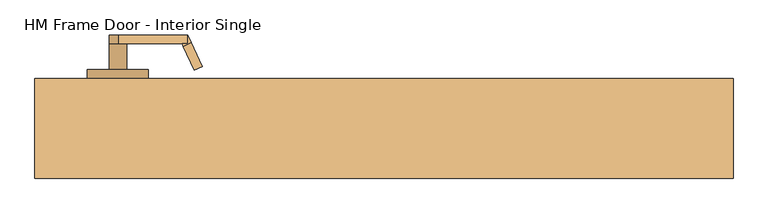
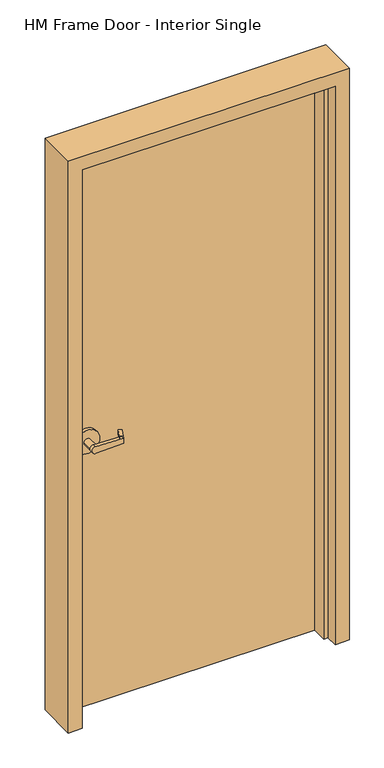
"""IFC4 building model written with IfcOpenShell, lengths in millimetres: door geometry."""

from ifc_helpers import new_model, si_unit, frame, origin, origin_with_axes, place, context, project, spatial, polyline, circle_curve, outline, extrude, faceted_brep, source, transform, mapped, element, save
from ifc_brep_helpers import plane_surface, cylinder_surface, advanced_brep


def hm_frame_door_interior_single_41877bdb(model_context):
    return source(origin(), model_context, "Body", "SolidModel", [
        advanced_brep(
        [(-291.892857, -18.0476392, 1025.525), (-275.7911012, 16.4826875, 1022.35), (-275.7911012, 16.4826875, 1009.65), (-291.892857, -18.0476392, 1006.475), (-293.8407923, -22.225, 1006.475), (-293.8407923, -22.225, 1025.525), (-285.75, -34.925, 1006.475), (-280.3827481, -23.4148911, 1006.475), (-264.2809923, 11.1154356, 1009.65), (-264.2809923, 11.1154356, 1022.35), (-280.3827481, -23.4148911, 1025.525), (-285.75, -34.925, 1025.525), (-285.75, -22.225, 1025.525), (-285.75, -22.225, 1006.475), (-386.9525418, -34.925, 1028.6937791), (-386.9525418, -34.925, 1003.3062209), (-386.9525418, -22.225, 1003.3062209), (-374.65, -22.225, 1016.0), (-386.9525418, -22.225, 1028.6937791), (-400.05, -22.225, 1016.0), (-400.05, 15.875, 1016.0), (-374.65, 15.875, 1016.0), (-431.8, 15.875, 1016.0), (-342.9, 15.875, 1016.0), (-431.8, 28.575, 1016.0), (-342.9, 28.575, 1016.0)],
        [
            (0, 1),
            (1, 2),
            (2, 3),
            (3, 4),
            (4, 5),
            (5, 0),
            (6, 7),
            (7, 8),
            (8, 9),
            (9, 10),
            (10, 11),
            (11, 6),
            (10, 0),
            (5, 12),
            (12, 11),
            (9, 1),
            (8, 2),
            (7, 3),
            (6, 13),
            (13, 4),
            (11, 14),
            (14, 15, circle_curve(frame((-387.35, -34.925, 1016.0), z_axis=(0.0, -1.0, 0.0), x_axis=(1.0, 0.0, 0.0)), 12.7)),
            (15, 6),
            (13, 16),
            (16, 17, circle_curve(frame((-387.35, -22.225, 1016.0), z_axis=(0.0, -1.0, 0.0), x_axis=(1.0, 0.0, 0.0)), 12.7)),
            (17, 18, circle_curve(frame((-387.35, -22.225, 1016.0), z_axis=(0.0, -1.0, 0.0), x_axis=(1.0, 0.0, 0.0)), 12.7)),
            (18, 12),
            (18, 14),
            (18, 19, circle_curve(frame((-387.35, -22.225, 1016.0), z_axis=(0.0, -1.0, 0.0), x_axis=(1.0, 0.0, 0.0)), 12.7)),
            (19, 16, circle_curve(frame((-387.35, -22.225, 1016.0), z_axis=(0.0, -1.0, 0.0), x_axis=(1.0, 0.0, 0.0)), 12.7)),
            (16, 15),
            (19, 20),
            (20, 21, circle_curve(frame((-387.35, 15.875, 1016.0), z_axis=(0.0, -1.0, 0.0), x_axis=(1.0, 0.0, 0.0)), 12.7)),
            (21, 17),
            (21, 20, circle_curve(frame((-387.35, 15.875, 1016.0), z_axis=(0.0, -1.0, 0.0), x_axis=(1.0, 0.0, 0.0)), 12.7)),
            (22, 23, circle_curve(frame((-387.35, 15.875, 1016.0), z_axis=(0.0, -1.0, 0.0), x_axis=(1.0, 0.0, 0.0)), 44.45)),
            (23, 22, circle_curve(frame((-387.35, 15.875, 1016.0), z_axis=(0.0, -1.0, 0.0), x_axis=(1.0, 0.0, 0.0)), 44.45)),
            (24, 25, circle_curve(frame((-387.35, 28.575, 1016.0), z_axis=(0.0, 1.0, 0.0), x_axis=(1.0, 0.0, 0.0)), 44.45)),
            (25, 24, circle_curve(frame((-387.35, 28.575, 1016.0), z_axis=(0.0, 1.0, 0.0), x_axis=(1.0, 0.0, 0.0)), 44.45)),
            (22, 24),
            (25, 23),
        ],
        [
            plane_surface(frame((-297.2601089, -29.5577481, 1025.525), z_axis=(-0.9063077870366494, 0.4226182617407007, 0.0), x_axis=(0.0, 0.0, 1.0))),
            plane_surface(frame((-285.75, -34.925, 1025.525), z_axis=(0.9063077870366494, -0.4226182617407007, 0.0), x_axis=(0.0, 0.0, -1.0))),
            plane_surface(frame((-297.2601089, -29.5577481, 1025.525), z_axis=(0.0, 0.0, 1.0000000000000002), x_axis=(0.9063077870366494, -0.42261826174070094, 0.0))),
            plane_surface(frame((-291.892857, -18.0476392, 1025.525), z_axis=(0.035096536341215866, 0.07526476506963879, 0.9965457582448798), x_axis=(0.9063077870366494, -0.42261826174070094, 0.0))),
            plane_surface(frame((-275.7911012, 16.4826875, 1022.35), z_axis=(0.42261826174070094, 0.9063077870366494, 0.0), x_axis=(0.9063077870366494, -0.42261826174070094, 0.0))),
            plane_surface(frame((-275.7911012, 16.4826875, 1009.65), z_axis=(0.03509653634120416, 0.07526476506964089, -0.9965457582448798), x_axis=(0.9063077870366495, -0.42261826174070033, 0.0))),
            plane_surface(frame((-291.892857, -18.0476392, 1006.475), z_axis=(0.0, 0.0, -1.0000000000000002), x_axis=(0.9063077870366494, -0.42261826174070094, 0.0))),
            plane_surface(frame((-285.75, -34.925, 1025.525), z_axis=(0.0, -1.0, 0.0), x_axis=(-0.9995101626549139, 0.0, 0.03129592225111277))),
            plane_surface(frame((-285.75, -22.225, 1025.525), z_axis=(0.0, 1.0, 0.0), x_axis=(0.9995101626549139, 0.0, -0.03129592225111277))),
            plane_surface(frame((-285.75, -34.925, 1025.525), z_axis=(0.03129592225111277, 0.0, 0.9995101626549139), x_axis=(0.0, 1.0, 0.0))),
            cylinder_surface(frame((-387.35, -22.225, 1016.0), z_axis=(0.0, -1.0, 0.0), x_axis=(1.0, 0.0, 0.0)), 12.7),
            plane_surface(frame((-386.9525418, -34.925, 1003.3062209), z_axis=(0.03129592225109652, 0.0, -0.9995101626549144), x_axis=(0.0, 1.0, 0.0))),
            cylinder_surface(frame((-387.35, 15.875, 1016.0), z_axis=(0.0, -1.0, 0.0), x_axis=(1.0, 0.0, 0.0)), 12.7),
            plane_surface(frame((-342.9, 15.875, 1016.0), z_axis=(0.0, -1.0, 0.0), x_axis=(0.0, 0.0, 1.0))),
            plane_surface(frame((-342.9, 28.575, 1016.0), z_axis=(0.0, 1.0, 0.0), x_axis=(0.0, 0.0, -1.0))),
            cylinder_surface(frame((-387.35, 28.575, 1016.0), z_axis=(0.0, -1.0, 0.0), x_axis=(1.0, 0.0, 0.0)), 44.45),
        ],
        [
            (0, [[1, 2, 3, 4, 5, 6]]),
            (1, [[7, 8, 9, 10, 11, 12]]),
            (2, [[-11, 13, -6, 14, 15]]),
            (3, [[-1, -13, -10, 16]]),
            (4, [[-2, -16, -9, 17]]),
            (5, [[-3, -17, -8, 18]]),
            (6, [[-7, 19, 20, -4, -18]]),
            (7, [[21, 22, 23, -12]]),
            (8, [[24, 25, 26, 27, -14, -5, -20]]),
            (9, [[-21, -15, -27, 28]]),
            (10, [[-22, -28, 29, 30, 31]]),
            (11, [[-23, -31, -24, -19]]),
            (12, [[32, 33, 34, -25, -30]]),
            (12, [[-32, -29, -26, -34, 35]]),
            (13, [[36, 37], [-33, -35]]),
            (14, [[38, 39]]),
            (15, [[-36, 40, -39, 41]]),
            (15, [[-37, -41, -38, -40]]),
        ],
    ),
        advanced_brep(
        [(-291.892857, 119.6476392, 1006.475), (-275.7911012, 85.1173125, 1009.65), (-275.7911012, 85.1173125, 1022.35), (-291.892857, 119.6476392, 1025.525), (-293.8407923, 123.825, 1025.525), (-293.8407923, 123.825, 1006.475), (-285.75, 136.525, 1025.525), (-280.3827481, 125.0148911, 1025.525), (-264.2809923, 90.4845644, 1022.35), (-264.2809923, 90.4845644, 1009.65), (-280.3827481, 125.0148911, 1006.475), (-285.75, 136.525, 1006.475), (-285.75, 123.825, 1006.475), (-285.75, 123.825, 1025.525), (-386.9525418, 136.525, 1003.3062209), (-386.9525418, 136.525, 1028.6937791), (-386.9525418, 123.825, 1028.6937791), (-374.65, 123.825, 1016.0), (-386.9525418, 123.825, 1003.3062209), (-400.05, 123.825, 1016.0), (-400.05, 85.725, 1016.0), (-374.65, 85.725, 1016.0), (-431.8, 85.725, 1016.0), (-342.9, 85.725, 1016.0), (-431.8, 73.025, 1016.0), (-342.9, 73.025, 1016.0)],
        [
            (0, 1),
            (1, 2),
            (2, 3),
            (3, 4),
            (4, 5),
            (5, 0),
            (6, 7),
            (7, 8),
            (8, 9),
            (9, 10),
            (10, 11),
            (11, 6),
            (10, 0),
            (5, 12),
            (12, 11),
            (9, 1),
            (8, 2),
            (7, 3),
            (6, 13),
            (13, 4),
            (11, 14),
            (14, 15, circle_curve(frame((-387.35, 136.525, 1016.0), z_axis=(0.0, 1.0, 0.0), x_axis=(1.0, 0.0, 0.0)), 12.7)),
            (15, 6),
            (13, 16),
            (16, 17, circle_curve(frame((-387.35, 123.825, 1016.0), z_axis=(0.0, 1.0, 0.0), x_axis=(1.0, 0.0, 0.0)), 12.7)),
            (17, 18, circle_curve(frame((-387.35, 123.825, 1016.0), z_axis=(0.0, 1.0, 0.0), x_axis=(1.0, 0.0, 0.0)), 12.7)),
            (18, 12),
            (18, 14),
            (18, 19, circle_curve(frame((-387.35, 123.825, 1016.0), z_axis=(0.0, 1.0, 0.0), x_axis=(1.0, 0.0, 0.0)), 12.7)),
            (19, 16, circle_curve(frame((-387.35, 123.825, 1016.0), z_axis=(0.0, 1.0, 0.0), x_axis=(1.0, 0.0, 0.0)), 12.7)),
            (16, 15),
            (19, 20),
            (20, 21, circle_curve(frame((-387.35, 85.725, 1016.0), z_axis=(0.0, 1.0, 0.0), x_axis=(1.0, 0.0, 0.0)), 12.7)),
            (21, 17),
            (21, 20, circle_curve(frame((-387.35, 85.725, 1016.0), z_axis=(0.0, 1.0, 0.0), x_axis=(1.0, 0.0, 0.0)), 12.7)),
            (22, 23, circle_curve(frame((-387.35, 85.725, 1016.0), z_axis=(0.0, 1.0, 0.0), x_axis=(1.0, 0.0, 0.0)), 44.45)),
            (23, 22, circle_curve(frame((-387.35, 85.725, 1016.0), z_axis=(0.0, 1.0, 0.0), x_axis=(1.0, 0.0, 0.0)), 44.45)),
            (24, 25, circle_curve(frame((-387.35, 73.025, 1016.0), z_axis=(0.0, -1.0, 0.0), x_axis=(1.0, 0.0, 0.0)), 44.45)),
            (25, 24, circle_curve(frame((-387.35, 73.025, 1016.0), z_axis=(0.0, -1.0, 0.0), x_axis=(1.0, 0.0, 0.0)), 44.45)),
            (22, 24),
            (25, 23),
        ],
        [
            plane_surface(frame((-297.2601089, 131.1577481, 1006.475), z_axis=(-0.9063077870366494, -0.4226182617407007, 0.0), x_axis=(0.0, 0.0, -1.0))),
            plane_surface(frame((-285.75, 136.525, 1006.475), z_axis=(0.9063077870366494, 0.4226182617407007, 0.0), x_axis=(0.0, 0.0, 1.0))),
            plane_surface(frame((-297.2601089, 131.1577481, 1006.475), z_axis=(0.0, 0.0, -1.0000000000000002), x_axis=(0.9063077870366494, 0.42261826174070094, 0.0))),
            plane_surface(frame((-291.892857, 119.6476392, 1006.475), z_axis=(0.03509653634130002, -0.07526476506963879, -0.9965457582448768), x_axis=(0.9063077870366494, 0.42261826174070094, 0.0))),
            plane_surface(frame((-275.7911012, 85.1173125, 1009.65), z_axis=(0.42261826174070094, -0.9063077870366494, 0.0), x_axis=(0.9063077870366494, 0.42261826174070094, 0.0))),
            plane_surface(frame((-275.7911012, 85.1173125, 1022.35), z_axis=(0.03509653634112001, -0.07526476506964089, 0.9965457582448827), x_axis=(0.9063077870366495, 0.42261826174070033, 0.0))),
            plane_surface(frame((-291.892857, 119.6476392, 1025.525), z_axis=(0.0, 0.0, 1.0000000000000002), x_axis=(0.9063077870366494, 0.42261826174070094, 0.0))),
            plane_surface(frame((-285.75, 136.525, 1006.475), z_axis=(0.0, 1.0, 0.0), x_axis=(-0.9995101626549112, 0.0, -0.03129592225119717))),
            plane_surface(frame((-285.75, 123.825, 1006.475), z_axis=(0.0, -1.0, 0.0), x_axis=(0.9995101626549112, 0.0, 0.03129592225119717))),
            plane_surface(frame((-285.75, 136.525, 1006.475), z_axis=(0.03129592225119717, 0.0, -0.9995101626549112), x_axis=(0.0, -1.0, 0.0))),
            cylinder_surface(frame((-387.35, 123.825, 1016.0), z_axis=(0.0, 1.0, 0.0), x_axis=(1.0, 0.0, 0.0)), 12.7),
            plane_surface(frame((-386.9525418, 136.525, 1028.6937791), z_axis=(0.031295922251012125, 0.0, 0.9995101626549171), x_axis=(0.0, -1.0, 0.0))),
            cylinder_surface(frame((-387.35, 85.725, 1016.0), z_axis=(0.0, 1.0, 0.0), x_axis=(1.0, 0.0, 0.0)), 12.7),
            plane_surface(frame((-342.9, 85.725, 1016.0), z_axis=(0.0, 1.0, 0.0), x_axis=(0.0, 0.0, -1.0))),
            plane_surface(frame((-342.9, 73.025, 1016.0), z_axis=(0.0, -1.0, 0.0), x_axis=(0.0, 0.0, 1.0))),
            cylinder_surface(frame((-387.35, 73.025, 1016.0), z_axis=(0.0, 1.0, 0.0), x_axis=(1.0, 0.0, 0.0)), 44.45),
        ],
        [
            (0, [[1, 2, 3, 4, 5, 6]]),
            (1, [[7, 8, 9, 10, 11, 12]]),
            (2, [[-11, 13, -6, 14, 15]]),
            (3, [[-1, -13, -10, 16]]),
            (4, [[-2, -16, -9, 17]]),
            (5, [[-3, -17, -8, 18]]),
            (6, [[-7, 19, 20, -4, -18]]),
            (7, [[21, 22, 23, -12]]),
            (8, [[24, 25, 26, 27, -14, -5, -20]]),
            (9, [[-21, -15, -27, 28]]),
            (10, [[-22, -28, 29, 30, 31]]),
            (11, [[-23, -31, -24, -19]]),
            (12, [[32, 33, 34, -25, -30]]),
            (12, [[-32, -29, -26, -34, 35]]),
            (13, [[36, 37], [-33, -35]]),
            (14, [[38, 39]]),
            (15, [[-36, 40, -39, 41]]),
            (15, [[-37, -41, -38, -40]]),
        ],
    ),
        faceted_brep([(508.0, 73.025, 0.0), (508.0, -73.025, 0.0), (457.2, -73.025, 0.0), (457.2, -28.575, 0.0), (441.325, -28.575, 0.0), (441.325, 28.575, 0.0), (457.2, 28.575, 0.0), (457.2, 73.025, 0.0), (508.0, 73.025, 2184.4), (508.0, -73.025, 2184.4), (-508.0, -73.025, 2184.4), (-508.0, -73.025, 0.0), (-457.2, -73.025, 0.0), (-457.2, -73.025, 2133.6), (457.2, -73.025, 2133.6), (457.2, -28.575, 2133.6), (-457.2, -28.575, 2133.6), (-457.2, -28.575, 0.0), (-441.325, -28.575, 0.0), (-441.325, -28.575, 2117.725), (441.325, -28.575, 2117.725), (441.325, 28.575, 2117.725), (-441.325, 28.575, 2117.725), (-441.325, 28.575, 0.0), (-457.2, 28.575, 0.0), (-457.2, 28.575, 2133.6), (457.2, 28.575, 2133.6), (457.2, 73.025, 2133.6), (-457.2, 73.025, 2133.6), (-457.2, 73.025, 0.0), (-508.0, 73.025, 0.0), (-508.0, 73.025, 2184.4)], [[[0, 1, 2, 3, 4, 5, 6, 7]], [[0, 8, 9, 1]], [[2, 1, 9, 10, 11, 12, 13, 14]], [[3, 2, 14, 15]], [[4, 3, 15, 16, 17, 18, 19, 20]], [[5, 4, 20, 21]], [[6, 5, 21, 22, 23, 24, 25, 26]], [[7, 6, 26, 27]], [[0, 7, 27, 28, 29, 30, 31, 8]], [[9, 8, 31, 10]], [[15, 14, 13, 16]], [[21, 20, 19, 22]], [[27, 26, 25, 28]], [[11, 30, 29, 24, 23, 18, 17, 12]], [[10, 31, 30, 11]], [[16, 13, 12, 17]], [[22, 19, 18, 23]], [[28, 25, 24, 29]]]),
        extrude(outline(polyline([(-457.2, 73.025), (457.2, 73.025), (457.2, 28.575), (-457.2, 28.575), (-457.2, 73.025)])), origin_with_axes(), (0.0, 0.0, 1.0), 2133.6),
    ])


if __name__ == "__main__":
    model = new_model("IFC4")
    model_context = context("Model", 3, world=origin())
    ifc_project = project(units=[si_unit("LENGTHUNIT", "METRE", prefix="MILLI")], contexts=[model_context])
    site = spatial("IfcSite", under=ifc_project)
    building = spatial("IfcBuilding", under=site)
    placement = place(None, origin())
    hm_frame_door_interior_single_shape = hm_frame_door_interior_single_41877bdb(model_context)
    element("IfcDoor", 1, ObjectType="HM Frame Door - Interior Single : 36\" x 84\" x 5.75\" WD Door", at=placement, inside=building, context=model_context, shape_type="MappedRepresentation", body=[
        mapped(hm_frame_door_interior_single_shape, transform((0.0, 0.0, 0.0), x_axis=(1.0, 0.0, 0.0), y_axis=(0.0, 1.0, 0.0), z_axis=(0.0, 0.0, 1.0))),
    ])
    save(model, "model.ifc")
